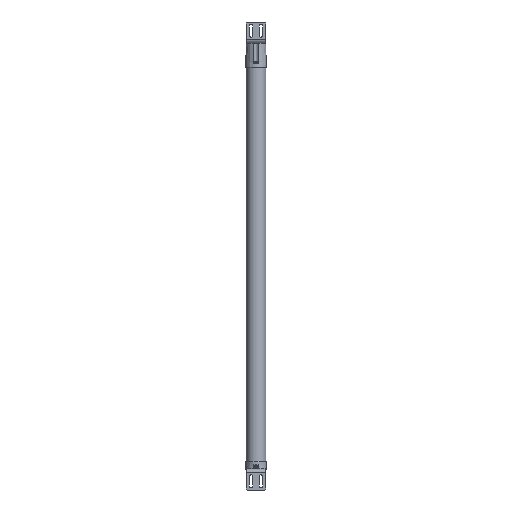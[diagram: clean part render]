
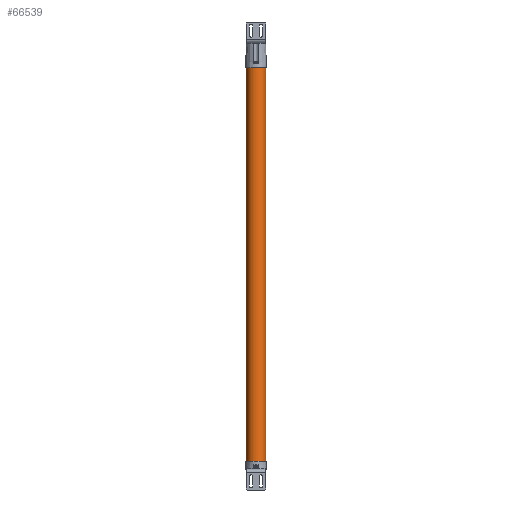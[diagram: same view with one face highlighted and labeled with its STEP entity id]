
A CAD part, front view. The second image highlights one B-rep face of the part: STEP entity #66539.
In plain terms, the highlighted cylindrical face has radius 20 mm (diameter 40 mm), a partial arc.
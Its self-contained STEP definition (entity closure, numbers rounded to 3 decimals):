
#6099=CARTESIAN_POINT('',(0.,0.003,0.));
#6100=DIRECTION('',(0.,0.,1.));
#6101=DIRECTION('',(-0.899,0.437,0.));
#6102=AXIS2_PLACEMENT_3D('',#6099,#6100,#6101);
#16991=DIRECTION('',(0.,0.,1.));
#16992=VECTOR('',#16991,802.);
#16993=CARTESIAN_POINT('',(17.986,8.75,-802.));
#16994=LINE('',#16993,#16992);
#16998=CARTESIAN_POINT('',(0.,0.003,-802.));
#16999=DIRECTION('',(0.,0.,1.));
#17000=DIRECTION('',(-0.899,0.437,0.));
#17001=AXIS2_PLACEMENT_3D('',#16998,#16999,#17000);
#17006=DIRECTION('',(0.,0.,1.));
#17007=VECTOR('',#17006,802.);
#17008=CARTESIAN_POINT('',(-17.986,8.75,-802.));
#17009=LINE('',#17008,#17007);
#46819=CARTESIAN_POINT('',(-17.986,8.75,0.));
#46820=VERTEX_POINT('',#46819);
#46821=CARTESIAN_POINT('',(17.986,8.75,0.));
#46822=VERTEX_POINT('',#46821);
#48541=CARTESIAN_POINT('',(-17.986,8.75,-802.));
#48542=VERTEX_POINT('',#48541);
#48543=CARTESIAN_POINT('',(17.986,8.75,-802.));
#48544=VERTEX_POINT('',#48543);
#66527=CARTESIAN_POINT('',(0.,0.003,-802.));
#66528=DIRECTION('',(0.,0.,1.));
#66529=DIRECTION('',(1.,0.,0.));
#66530=AXIS2_PLACEMENT_3D('',#66527,#66528,#66529);
#66531=CYLINDRICAL_SURFACE('',#66530,20.);
#66532=ORIENTED_EDGE('',*,*,#65046,.F.);
#66534=ORIENTED_EDGE('',*,*,#66533,.T.);
#66535=ORIENTED_EDGE('',*,*,#56467,.T.);
#66536=ORIENTED_EDGE('',*,*,#66513,.F.);
#66537=EDGE_LOOP('',(#66532,#66534,#66535,#66536));
#66538=FACE_OUTER_BOUND('',#66537,.F.);
#6103=CIRCLE('',#6102,20.);
#17002=CIRCLE('',#17001,20.);
#56467=EDGE_CURVE('',#46820,#46822,#6103,.T.);
#65046=EDGE_CURVE('',#48542,#48544,#17002,.T.);
#66513=EDGE_CURVE('',#48544,#46822,#16994,.T.);
#66533=EDGE_CURVE('',#48542,#46820,#17009,.T.);
#66539=ADVANCED_FACE('',(#66538),#66531,.T.);
